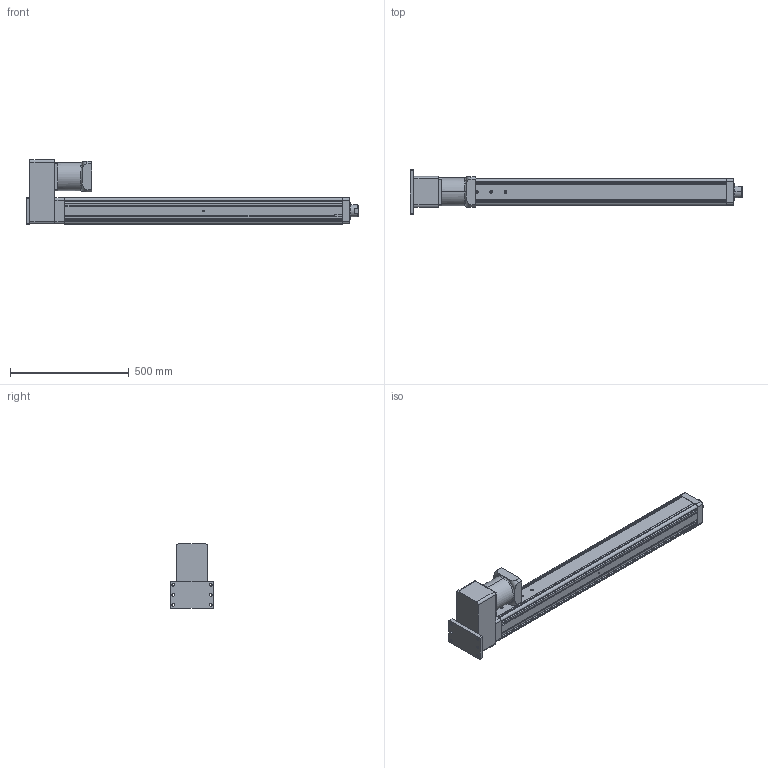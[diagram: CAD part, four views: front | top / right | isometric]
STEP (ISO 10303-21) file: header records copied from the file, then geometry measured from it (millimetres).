
FILE_DESCRIPTION (( 'STEP AP203' ), '1' );
FILE_NAME ('YRJ110-L1000-H4K2.STEP', '2020-01-06T01:51:04', ( 'User' ), ( 'China' ), 'SwSTEP 2.0', 'SolidWorks 2016', '' );
FILE_SCHEMA (( 'CONFIG_CONTROL_DESIGN' ));
Length unit declared in the file: millimetre
Products named in the file (8): 095-100俴最倰第; H5-110-1; 萇儂碟-110; H3-110-2; H4-110; 120遺1500W珨撰熬厒儂; K2-110; YRJ110-L1000-H4K2
Assembly tree (7 placements, depth 2):
  YRJ110-L1000-H4K2
    095-100俴最倰第
    H5-110-1
    萇儂碟-110
    H3-110-2
    H4-110
    120遺1500W珨撰熬厒儂
    K2-110
Bounding box: 1397 x 185 x 271 mm (x, y, z)
Volume: 11450566.3 mm3; surface area: 1424865.8 mm2
Topology: 7 solids, 7 shells, 320 faces, 865 edges, 553 vertices
Faces by surface type: plane 160, cylinder 122, cone 29, torus 5, bspline 4
Entity records: 11223 total; most frequent: CARTESIAN_POINT 2196, DIRECTION 1739, ORIENTED_EDGE 1698, EDGE_CURVE 849, AXIS2_PLACEMENT_3D 602, VERTEX_POINT 553, LINE 535, VECTOR 535
